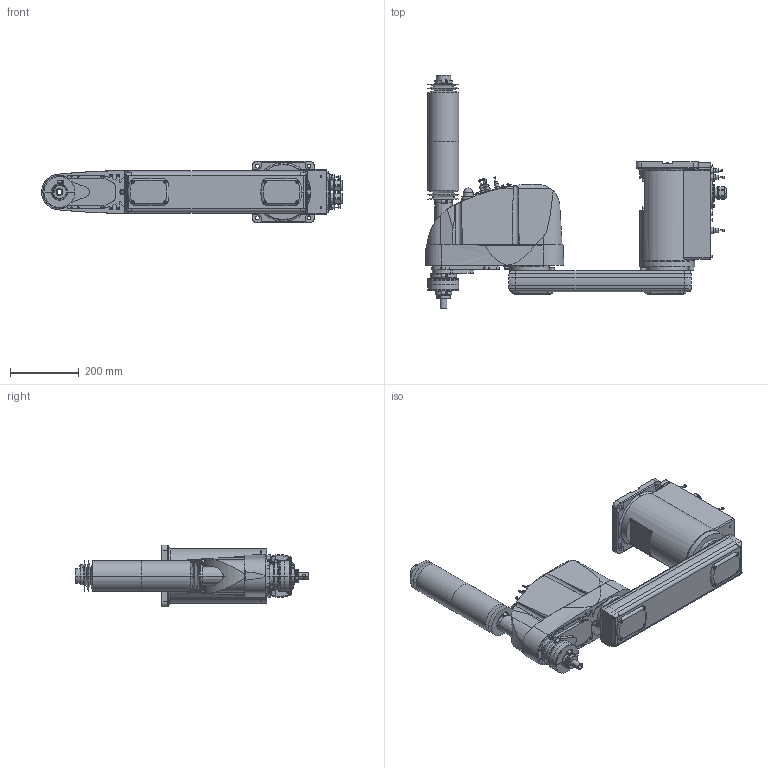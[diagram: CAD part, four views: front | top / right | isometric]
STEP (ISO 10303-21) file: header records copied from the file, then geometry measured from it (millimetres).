
FILE_DESCRIPTION( ( '' ), '1' );
FILE_NAME( '//expscmdclustefs.cadenas.external/client_exchange/iodir/jobs/output/wkb51545311_no0/STEP/G6_653DR_2_14b.stp', '2012-11-23T12:41:22', ( '' ), ( '' ), ' ', ' ', ' ' );
FILE_SCHEMA( ( 'automotive_design' ) );
Length unit declared in the file: millimetre
Products named in the file (8): 1; 2; 3; 4; 5; 6; 7; 8
Bounding box: 874 x 679.5 x 180 mm (x, y, z)
Volume: 23219074.9 mm3; surface area: 1188170.4 mm2
Topology: 8 solids, 8 shells, 1818 faces, 4381 edges, 2787 vertices
Faces by surface type: plane 867, cylinder 628, cone 282, torus 40, sphere 1
Entity records: 106723 total; most frequent: CARTESIAN_POINT 12979, DIRECTION 9372, STYLED_ITEM 8964, PRESENTATION_STYLE_ASSIGNMENT 8964, COLOUR_RGB 8964, ORIENTED_EDGE 8702, EDGE_CURVE 4351, CURVE_STYLE 4351
